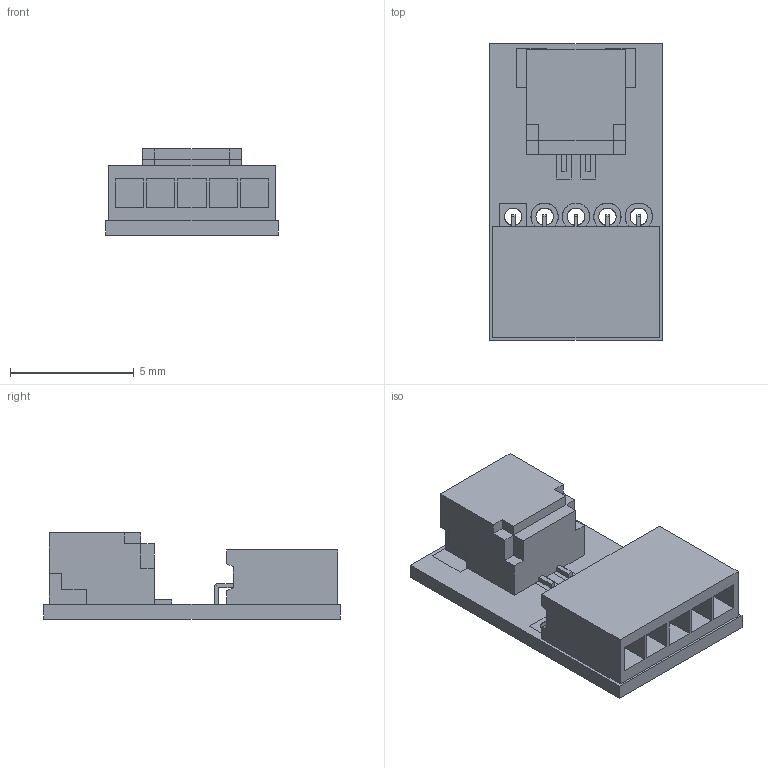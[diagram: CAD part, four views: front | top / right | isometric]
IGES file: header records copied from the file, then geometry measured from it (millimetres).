
Global section: file name: Filename.iges; native system: Open CASCADE 7.4; preprocessor: Open CASCADE IGES processor 7.4; date: 20200821.125442; units: millimetre
Bounding box: 7 x 12 x 3.5 mm (x, y, z)
Surface area: 525.3 mm2 (no closed solid volume)
Topology: 0 solids, 0 shells, 251 faces, 1118 edges, 1052 vertices
Faces by surface type: plane 213, revolution 38
